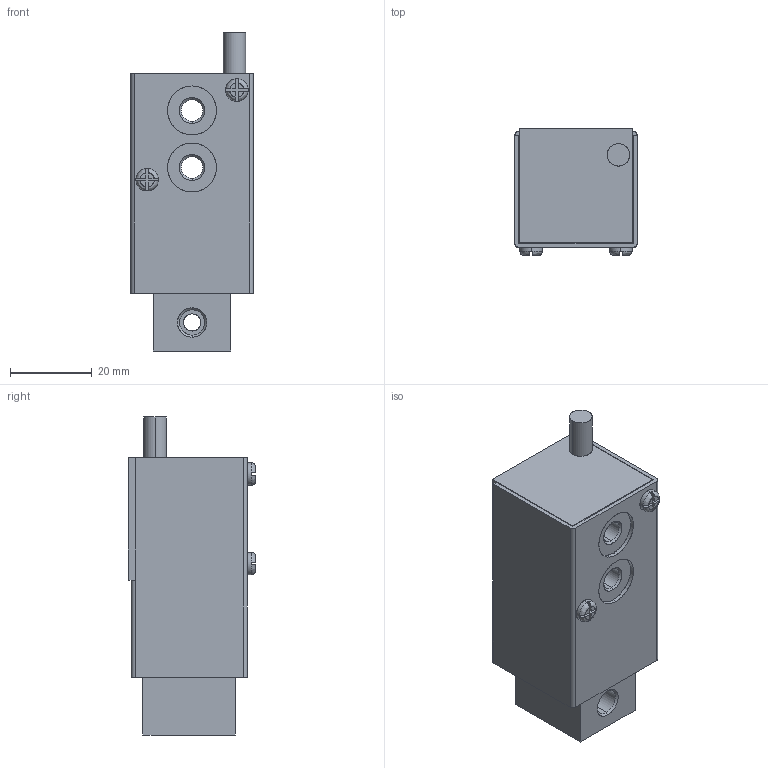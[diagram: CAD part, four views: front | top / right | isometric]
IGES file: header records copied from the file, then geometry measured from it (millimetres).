
Start section: SolidWorks IGES file using analytic representation for surfaces
Global section: file name: O:\16-Entwicklung\Projekte\03_Kraftsensoren\0217_KM701\01_Mechanik & Gehäuse\01_Solid Works\01_Outline 3D files\3D_KM701.IGS; native system: SolidWorks 2012; preprocessor: SolidWorks 2012; author: AndreB; date: 140617.154652; units: metre
Bounding box: 30 x 31.15 x 78 mm (x, y, z)
Surface area: 18927.2 mm2 (no closed solid volume)
Topology: 0 solids, 0 shells, 116 faces, 1496 edges, 1492 vertices
Faces by surface type: bspline 66, revolution 50
